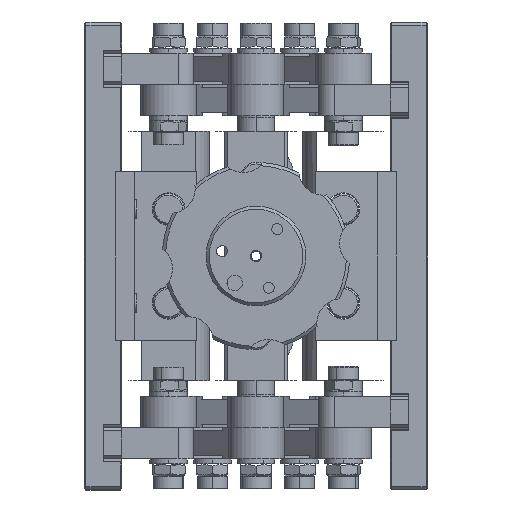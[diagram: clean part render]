
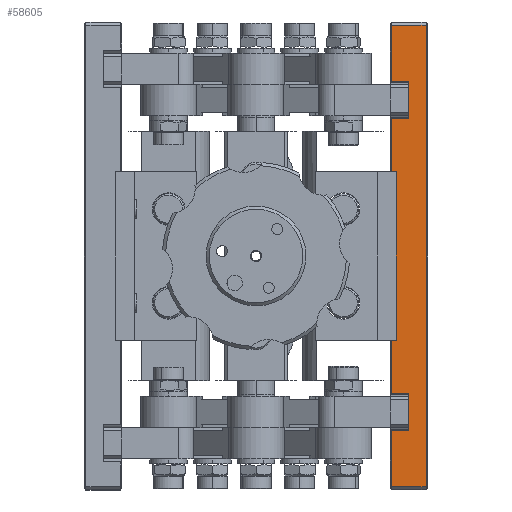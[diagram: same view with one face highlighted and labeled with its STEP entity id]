
A CAD part, left-side view. The second image highlights one B-rep face of the part: STEP entity #58605.
In plain terms, the highlighted planar face has unit normal (-1, 0, 0).
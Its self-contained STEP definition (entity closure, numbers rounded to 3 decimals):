
#562 = CARTESIAN_POINT ( 'NONE',  ( -235.714, -51.4, 356. ) ) ;
#617 = CARTESIAN_POINT ( 'NONE',  ( -235.714, -47.4, 325. ) ) ;
#1807 = VERTEX_POINT ( 'NONE', #25899 ) ;
#3137 = EDGE_CURVE ( 'NONE', #1807, #34761, #44999, .T. ) ;
#3259 = DIRECTION ( 'NONE',  ( 0., 0., -1. ) ) ;
#4623 = CARTESIAN_POINT ( 'NONE',  ( -235.714, -51.4, 344. ) ) ;
#4729 = ORIENTED_EDGE ( 'NONE', *, *, #53893, .F. ) ;
#5117 = CARTESIAN_POINT ( 'NONE',  ( -235.714, -45.9, 373. ) ) ;
#5599 = VECTOR ( 'NONE', #53292, 1000. ) ;
#6418 = FACE_OUTER_BOUND ( 'NONE', #66634, .T. ) ;
#6714 = EDGE_CURVE ( 'NONE', #70199, #26040, #40997, .T. ) ;
#7728 = EDGE_CURVE ( 'NONE', #62453, #55215, #35682, .T. ) ;
#8745 = ORIENTED_EDGE ( 'NONE', *, *, #38220, .T. ) ;
#8925 = EDGE_CURVE ( 'NONE', #18455, #44457, #44520, .T. ) ;
#10239 = CARTESIAN_POINT ( 'NONE',  ( -235.714, -47.4, 427. ) ) ;
#10252 = DIRECTION ( 'NONE',  ( 0., -1., 0. ) ) ;
#10421 = VECTOR ( 'NONE', #67088, 1000. ) ;
#11647 = CARTESIAN_POINT ( 'NONE',  ( -235.714, -51.4, 356. ) ) ;
#13383 = AXIS2_PLACEMENT_3D ( 'NONE', #13812, #54077, #19348 ) ;
#13469 = DIRECTION ( 'NONE',  ( 0., 1., 0. ) ) ;
#13471 = DIRECTION ( 'NONE',  ( 0., 1., 0. ) ) ;
#13812 = CARTESIAN_POINT ( 'NONE',  ( -235.714, -45.4, 325. ) ) ;
#14854 = EDGE_CURVE ( 'NONE', #21059, #32585, #64411, .T. ) ;
#14979 = CARTESIAN_POINT ( 'NONE',  ( -235.714, -45.9, 427. ) ) ;
#15274 = VECTOR ( 'NONE', #63670, 1000. ) ;
#15547 = LINE ( 'NONE', #4623, #27208 ) ;
#16341 = CARTESIAN_POINT ( 'NONE',  ( -235.714, -45.9, 325. ) ) ;
#17104 = DIRECTION ( 'NONE',  ( 0., 0., -1. ) ) ;
#18455 = VERTEX_POINT ( 'NONE', #66552 ) ;
#18555 = CARTESIAN_POINT ( 'NONE',  ( -235.714, -45.4, 373. ) ) ;
#19348 = DIRECTION ( 'NONE',  ( 0., 0., -1. ) ) ;
#19707 = EDGE_CURVE ( 'NONE', #1807, #34690, #35826, .T. ) ;
#19827 = DIRECTION ( 'NONE',  ( 0., 1., 0. ) ) ;
#20593 = VECTOR ( 'NONE', #47477, 1000. ) ;
#21059 = VERTEX_POINT ( 'NONE', #58749 ) ;
#21300 = CARTESIAN_POINT ( 'NONE',  ( -235.714, -51.4, 344. ) ) ;
#21703 = CARTESIAN_POINT ( 'NONE',  ( -235.714, -45.9, 326. ) ) ;
#22704 = CARTESIAN_POINT ( 'NONE',  ( -235.714, -45.9, 444. ) ) ;
#23559 = CARTESIAN_POINT ( 'NONE',  ( -235.714, -56.9, 474. ) ) ;
#23951 = VECTOR ( 'NONE', #27054, 1000. ) ;
#23989 = ORIENTED_EDGE ( 'NONE', *, *, #33404, .T. ) ;
#24080 = VERTEX_POINT ( 'NONE', #66106 ) ;
#25899 = CARTESIAN_POINT ( 'NONE',  ( -235.714, -47.4, 373. ) ) ;
#26040 = VERTEX_POINT ( 'NONE', #48375 ) ;
#26065 = LINE ( 'NONE', #16341, #67453 ) ;
#27054 = DIRECTION ( 'NONE',  ( 0., 0., 1. ) ) ;
#27208 = VECTOR ( 'NONE', #44688, 1000. ) ;
#28585 = VECTOR ( 'NONE', #40602, 1000. ) ;
#29595 = CARTESIAN_POINT ( 'NONE',  ( -235.714, -45.4, 474. ) ) ;
#29678 = VERTEX_POINT ( 'NONE', #21703 ) ;
#30213 = CARTESIAN_POINT ( 'NONE',  ( -235.714, -45.9, 325. ) ) ;
#30454 = CARTESIAN_POINT ( 'NONE',  ( -235.714, -45.4, 427. ) ) ;
#32324 = LINE ( 'NONE', #37073, #66504 ) ;
#32585 = VERTEX_POINT ( 'NONE', #11647 ) ;
#33154 = CARTESIAN_POINT ( 'NONE',  ( -235.714, -45.4, 326. ) ) ;
#33404 = EDGE_CURVE ( 'NONE', #54429, #56821, #26065, .T. ) ;
#33868 = ORIENTED_EDGE ( 'NONE', *, *, #14854, .F. ) ;
#34006 = DIRECTION ( 'NONE',  ( 0., 0., 1. ) ) ;
#34690 = VERTEX_POINT ( 'NONE', #10239 ) ;
#34761 = VERTEX_POINT ( 'NONE', #5117 ) ;
#34857 = LINE ( 'NONE', #70245, #28585 ) ;
#34920 = EDGE_CURVE ( 'NONE', #32585, #24080, #64506, .T. ) ;
#35682 = LINE ( 'NONE', #37756, #53808 ) ;
#35717 = LINE ( 'NONE', #68600, #62719 ) ;
#35826 = LINE ( 'NONE', #617, #20593 ) ;
#36210 = EDGE_CURVE ( 'NONE', #56821, #34690, #48520, .T. ) ;
#37073 = CARTESIAN_POINT ( 'NONE',  ( -235.714, -51.4, 444. ) ) ;
#37756 = CARTESIAN_POINT ( 'NONE',  ( -235.714, -45.9, 325. ) ) ;
#38220 = EDGE_CURVE ( 'NONE', #72425, #29678, #35717, .T. ) ;
#38990 = EDGE_CURVE ( 'NONE', #29678, #18455, #42808, .T. ) ;
#39610 = ORIENTED_EDGE ( 'NONE', *, *, #6714, .F. ) ;
#40602 = DIRECTION ( 'NONE',  ( 0., 1., 0. ) ) ;
#40997 = LINE ( 'NONE', #44980, #10421 ) ;
#42250 = ORIENTED_EDGE ( 'NONE', *, *, #3137, .T. ) ;
#42593 = ORIENTED_EDGE ( 'NONE', *, *, #34920, .F. ) ;
#42808 = LINE ( 'NONE', #33154, #55510 ) ;
#44457 = VERTEX_POINT ( 'NONE', #23559 ) ;
#44520 = LINE ( 'NONE', #50654, #49955 ) ;
#44688 = DIRECTION ( 'NONE',  ( 0., 1., 0. ) ) ;
#44980 = CARTESIAN_POINT ( 'NONE',  ( -235.714, -51.4, 456. ) ) ;
#44999 = LINE ( 'NONE', #18555, #51300 ) ;
#47477 = DIRECTION ( 'NONE',  ( 0., 0., 1. ) ) ;
#48250 = PLANE ( 'NONE',  #13383 ) ;
#48366 = VECTOR ( 'NONE', #13469, 1000. ) ;
#48375 = CARTESIAN_POINT ( 'NONE',  ( -235.714, -51.4, 456. ) ) ;
#48520 = LINE ( 'NONE', #30454, #15274 ) ;
#49955 = VECTOR ( 'NONE', #34006, 1000. ) ;
#50654 = CARTESIAN_POINT ( 'NONE',  ( -235.714, -56.9, 474. ) ) ;
#50781 = DIRECTION ( 'NONE',  ( 0., 0., -1. ) ) ;
#51244 = CARTESIAN_POINT ( 'NONE',  ( -235.714, -45.9, 344. ) ) ;
#51300 = VECTOR ( 'NONE', #19827, 1000. ) ;
#52931 = ORIENTED_EDGE ( 'NONE', *, *, #73402, .T. ) ;
#53292 = DIRECTION ( 'NONE',  ( 0., 1., 0. ) ) ;
#53808 = VECTOR ( 'NONE', #3259, 1000. ) ;
#53893 = EDGE_CURVE ( 'NONE', #26040, #55215, #34857, .T. ) ;
#54077 = DIRECTION ( 'NONE',  ( 1., 0., 0. ) ) ;
#54429 = VERTEX_POINT ( 'NONE', #22704 ) ;
#55215 = VERTEX_POINT ( 'NONE', #56302 ) ;
#55510 = VECTOR ( 'NONE', #10252, 1000. ) ;
#56302 = CARTESIAN_POINT ( 'NONE',  ( -235.714, -45.9, 456. ) ) ;
#56821 = VERTEX_POINT ( 'NONE', #14979 ) ;
#58605 = ADVANCED_FACE ( 'NONE', ( #6418 ), #48250, .F. ) ;
#58749 = CARTESIAN_POINT ( 'NONE',  ( -235.714, -51.4, 344. ) ) ;
#58781 = EDGE_CURVE ( 'NONE', #21059, #72425, #15547, .T. ) ;
#58822 = LINE ( 'NONE', #29595, #5599 ) ;
#58973 = ORIENTED_EDGE ( 'NONE', *, *, #36210, .T. ) ;
#60666 = EDGE_CURVE ( 'NONE', #70199, #54429, #32324, .T. ) ;
#60959 = ORIENTED_EDGE ( 'NONE', *, *, #7728, .T. ) ;
#61212 = ORIENTED_EDGE ( 'NONE', *, *, #68395, .T. ) ;
#61568 = VECTOR ( 'NONE', #70181, 1000. ) ;
#62453 = VERTEX_POINT ( 'NONE', #70470 ) ;
#62719 = VECTOR ( 'NONE', #17104, 1000. ) ;
#63670 = DIRECTION ( 'NONE',  ( 0., -1., 0. ) ) ;
#64411 = LINE ( 'NONE', #21300, #23951 ) ;
#64506 = LINE ( 'NONE', #562, #48366 ) ;
#66106 = CARTESIAN_POINT ( 'NONE',  ( -235.714, -45.9, 356. ) ) ;
#66504 = VECTOR ( 'NONE', #13471, 1000. ) ;
#66537 = CARTESIAN_POINT ( 'NONE',  ( -235.714, -51.4, 444. ) ) ;
#66552 = CARTESIAN_POINT ( 'NONE',  ( -235.714, -56.9, 326. ) ) ;
#66634 = EDGE_LOOP ( 'NONE', ( #73352, #42250, #52931, #42593, #33868, #70824, #8745, #69740, #69577, #61212, #60959, #4729, #39610, #67832, #23989, #58973 ) ) ;
#66923 = LINE ( 'NONE', #30213, #61568 ) ;
#67088 = DIRECTION ( 'NONE',  ( 0., 0., 1. ) ) ;
#67453 = VECTOR ( 'NONE', #50781, 1000. ) ;
#67832 = ORIENTED_EDGE ( 'NONE', *, *, #60666, .T. ) ;
#68395 = EDGE_CURVE ( 'NONE', #44457, #62453, #58822, .T. ) ;
#68600 = CARTESIAN_POINT ( 'NONE',  ( -235.714, -45.9, 325. ) ) ;
#69577 = ORIENTED_EDGE ( 'NONE', *, *, #8925, .T. ) ;
#69740 = ORIENTED_EDGE ( 'NONE', *, *, #38990, .T. ) ;
#70181 = DIRECTION ( 'NONE',  ( 0., 0., -1. ) ) ;
#70199 = VERTEX_POINT ( 'NONE', #66537 ) ;
#70245 = CARTESIAN_POINT ( 'NONE',  ( -235.714, -51.4, 456. ) ) ;
#70470 = CARTESIAN_POINT ( 'NONE',  ( -235.714, -45.9, 474. ) ) ;
#70824 = ORIENTED_EDGE ( 'NONE', *, *, #58781, .T. ) ;
#72425 = VERTEX_POINT ( 'NONE', #51244 ) ;
#73352 = ORIENTED_EDGE ( 'NONE', *, *, #19707, .F. ) ;
#73402 = EDGE_CURVE ( 'NONE', #34761, #24080, #66923, .T. ) ;
